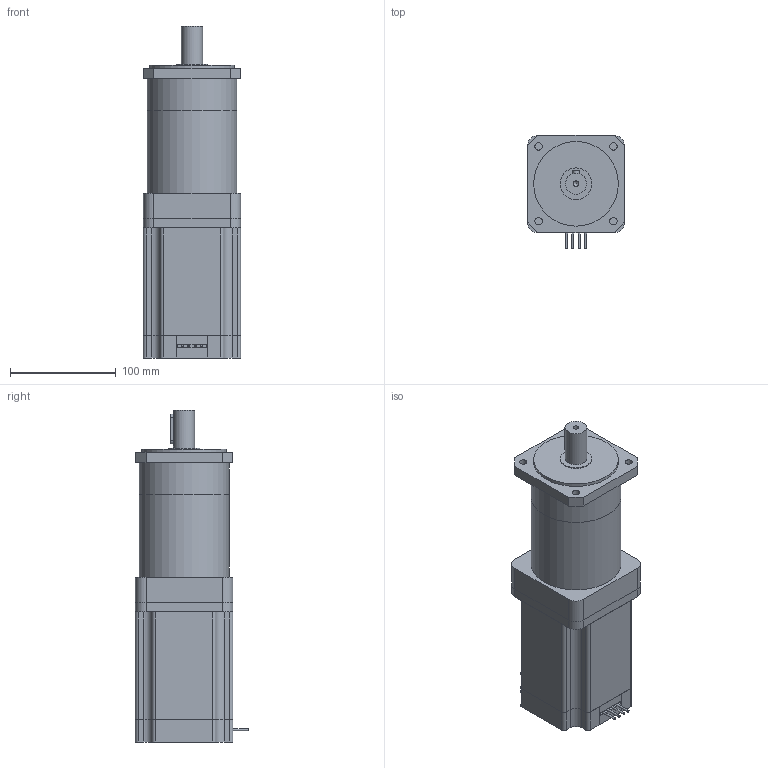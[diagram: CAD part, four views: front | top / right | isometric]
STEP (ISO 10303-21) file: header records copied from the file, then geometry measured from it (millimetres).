
FILE_DESCRIPTION(/* description */ (''),/* implementation_level */ '2;1');
FILE_NAME(/* name */ '86PG015-D60-04132.stp',/* time_stamp */ '2018-08-27T09:25:49+08:00',/* author */ (''),/* organization */ (''),/* preprocessor_version */ 'ST-DEVELOPER v11',/* originating_system */ 'SIEMENS UGS NX 6.0',/* authorisation */ '');
FILE_SCHEMA (('CONFIG_CONTROL_DESIGN'));
Length unit declared in the file: millimetre
Products named in the file (1): 86PG015-D60-04132
Bounding box: 92 x 107 x 314 mm (x, y, z)
Volume: 1917500.3 mm3; surface area: 182141.2 mm2
Topology: 6 solids, 6 shells, 121 faces, 301 edges, 202 vertices
Faces by surface type: plane 72, cylinder 48, cone 1
Full cylindrical faces by diameter (mm): 2 x4, 5.3 x1, 7 x4, 20 x1, 30 x1, 80 x1, 85 x2
Entity records: 3644 total; most frequent: CARTESIAN_POINT 659, DIRECTION 616, ORIENTED_EDGE 560, EDGE_CURVE 280, AXIS2_PLACEMENT_3D 216, VERTEX_POINT 197, LINE 184, VECTOR 184
